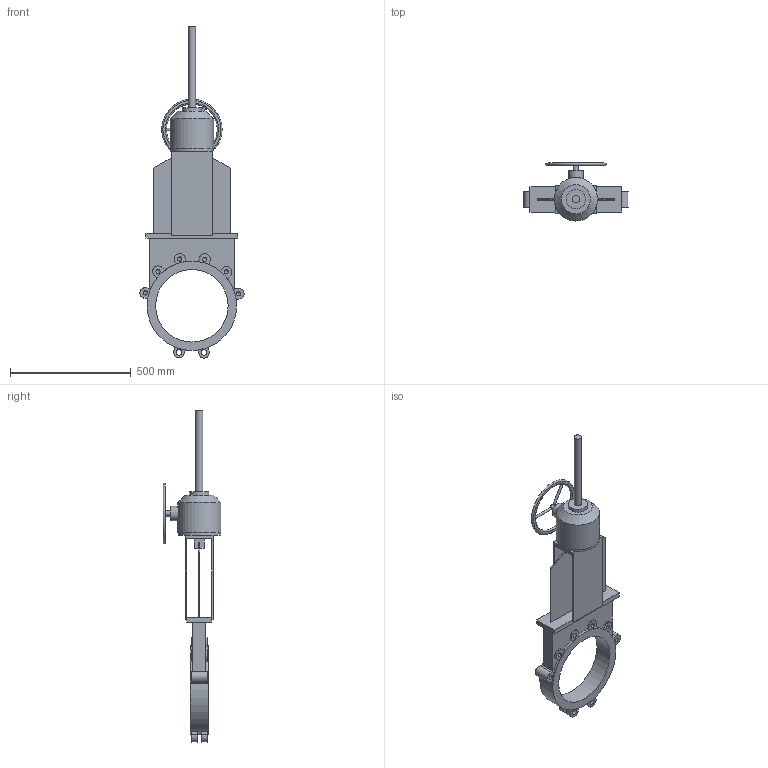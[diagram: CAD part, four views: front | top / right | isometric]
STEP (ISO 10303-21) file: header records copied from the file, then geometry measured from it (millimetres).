
FILE_DESCRIPTION(('STEP AP203'), '1');
FILE_NAME('Çàäâèæêà øèáåðíàÿ K51GV DN300 ðåäóêòîð+âûäâèæíîé øïèíäåëü', '', ('UNSPECIFIED'), ('UNSPECIFIED'), 'ASCON STEP Converter 1.6', 'ASCON Math Kernel', '');
FILE_SCHEMA(('CONFIG_CONTROL_DESIGN'));
Length unit declared in the file: millimetre
Bounding box: 431.19 x 240 x 1374 mm (x, y, z)
Volume: 12335486.6 mm3; surface area: 1112233.4 mm2
Topology: 1 solids, 1 shells, 157 faces, 416 edges, 265 vertices
Faces by surface type: plane 99, cylinder 41, cone 13, torus 4
Full cylindrical faces by diameter (mm): 10 x3, 17.294 x12, 23 x4, 24 x1, 30 x1, 60 x1, 80 x1, 175 x1, 180 x1, 300 x1, 370 x1
Entity records: 7105 total; most frequent: CARTESIAN_POINT 2050, DIRECTION 792, ORIENTED_EDGE 724, EDGE_CURVE 362, AXIS2_PLACEMENT_3D 285, VERTEX_POINT 253, EDGE_LOOP 223, LINE 222
